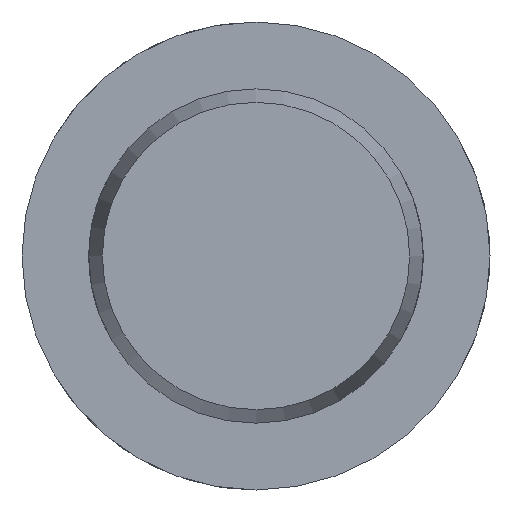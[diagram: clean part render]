
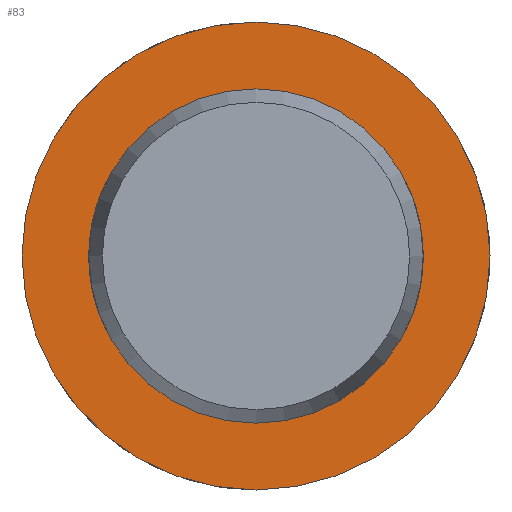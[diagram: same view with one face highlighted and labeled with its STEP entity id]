
A CAD part, left-side view. The second image highlights one B-rep face of the part: STEP entity #83.
In plain terms, the highlighted planar face has unit normal (-1, 0, 0).
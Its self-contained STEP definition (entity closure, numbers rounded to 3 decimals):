
#83 = ADVANCED_FACE( '', ( #128, #129 ), #130, .F. );
#128 = FACE_OUTER_BOUND( '', #204, .T. );
#129 = FACE_BOUND( '', #205, .T. );
#130 = PLANE( '', #206 );
#204 = EDGE_LOOP( '', ( #318 ) );
#205 = EDGE_LOOP( '', ( #319 ) );
#206 = AXIS2_PLACEMENT_3D( '', #320, #321, #322 );
#318 = ORIENTED_EDGE( '', *, *, #481, .F. );
#319 = ORIENTED_EDGE( '', *, *, #471, .T. );
#320 = CARTESIAN_POINT( '', ( 24.6, 5., 0. ) );
#321 = DIRECTION( '', ( 1., 0., 0. ) );
#322 = DIRECTION( '', ( 0., 0., -1. ) );
#471 = EDGE_CURVE( '', #541, #541, #542, .T. );
#481 = EDGE_CURVE( '', #559, #559, #560, .T. );
#541 = VERTEX_POINT( '', #726 );
#542 = CIRCLE( '', #727, 5. );
#559 = VERTEX_POINT( '', #881 );
#560 = CIRCLE( '', #882, 7. );
#726 = CARTESIAN_POINT( '', ( 24.6, 0., -5. ) );
#727 = AXIS2_PLACEMENT_3D( '', #943, #944, #945 );
#881 = CARTESIAN_POINT( '', ( 24.6, 0., -7. ) );
#882 = AXIS2_PLACEMENT_3D( '', #964, #965, #966 );
#943 = CARTESIAN_POINT( '', ( 24.6, 0., 0. ) );
#944 = DIRECTION( '', ( 1., 0., 0. ) );
#945 = DIRECTION( '', ( 0., 0., -1. ) );
#964 = CARTESIAN_POINT( '', ( 24.6, 0., 0. ) );
#965 = DIRECTION( '', ( 1., 0., 0. ) );
#966 = DIRECTION( '', ( 0., 0., -1. ) );
